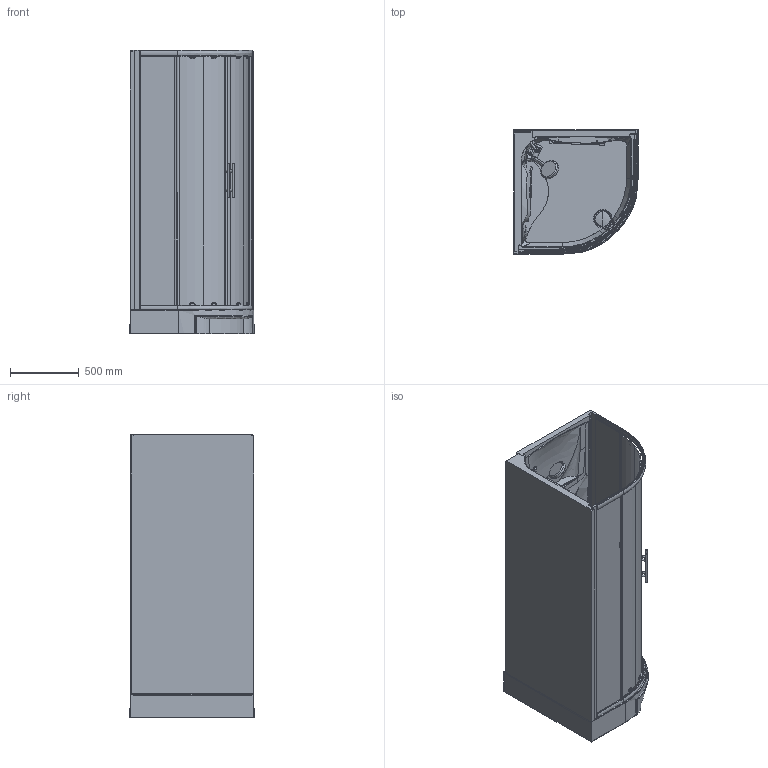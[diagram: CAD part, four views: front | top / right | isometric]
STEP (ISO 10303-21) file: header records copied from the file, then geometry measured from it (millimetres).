
FILE_DESCRIPTION(('STEP AP203'),'2;1');
FILE_NAME('NNH R90 M 19.stp','2015-09-04T15:14:03',(''),(''),'2014.1.117','THINKDESIGN','');
FILE_SCHEMA(('CONFIG_CONTROL_DESIGN'));
Length unit declared in the file: millimetre
Products named in the file (1): top
Bounding box: 902.54 x 902.53 x 2063.06 mm (x, y, z)
Volume: 205095952.9 mm3; surface area: 17209565.4 mm2
Topology: 53 solids, 53 shells, 929 faces, 2175 edges, 1362 vertices
Faces by surface type: bspline 603, plane 238, cylinder 88
Entity records: 99954 total; most frequent: CARTESIAN_POINT 82603, ORIENTED_EDGE 4306, EDGE_CURVE 2153, DIRECTION 2151, VERTEX_POINT 1354, EDGE_LOOP 953, FACE_OUTER_BOUND 927, ADVANCED_FACE 927
